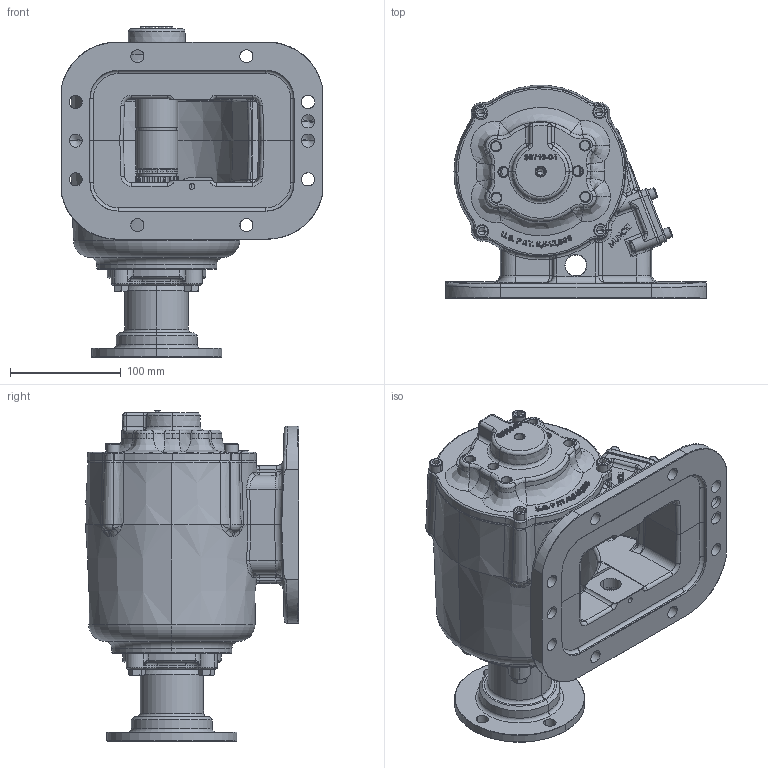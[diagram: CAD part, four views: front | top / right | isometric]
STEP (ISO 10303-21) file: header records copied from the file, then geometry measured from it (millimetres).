
FILE_DESCRIPTION (( 'STEP AP203' ), '1' );
FILE_NAME ('CS8S-XXXXX-E1CX.STEP', '2023-04-28T14:19:58', ( '' ), ( '' ), 'SwSTEP 2.0', 'SolidWorks 2021', '' );
FILE_SCHEMA (( 'CONFIG_CONTROL_DESIGN' ));
Length unit declared in the file: inch
Products named in the file (15): 19T38266; 06T37372_06T37372; 19T41756; 19T41118; 19T35237; CS8S-XXXXX-E1CX; 11T37790; 15TA5220_Config1; 21T20092; 16t34000; 15T36717; 14T37357; 15T41683; 10T21017; 01T42182_01T42182
Assembly tree (23 placements, depth 3):
  CS8S-XXXXX-E1CX
    16t34000
    15T36717
    01T42182_01T42182
    10T21017
    15TA5220_Config1
      15T41683
      11T37790
    19T41756  x4
    19T41118  x4
    19T35237  x4
    06T37372_06T37372
    14T37357
    21T20092
    19T38266
Bounding box: 234.96 x 192.24 x 297.95 mm (x, y, z)
Volume: 1895522.6 mm3; surface area: 500683.3 mm2
Topology: 22 solids, 22 shells, 2781 faces, 7114 edges, 4392 vertices
Faces by surface type: bspline 797, plane 785, cylinder 566, cone 361, torus 248, sphere 24
Entity records: 167615 total; most frequent: CARTESIAN_POINT 109984, ORIENTED_EDGE 12968, DIRECTION 9701, EDGE_CURVE 6484, VERTEX_POINT 4056, AXIS2_PLACEMENT_3D 3799, EDGE_LOOP 2772, ADVANCED_FACE 2553
